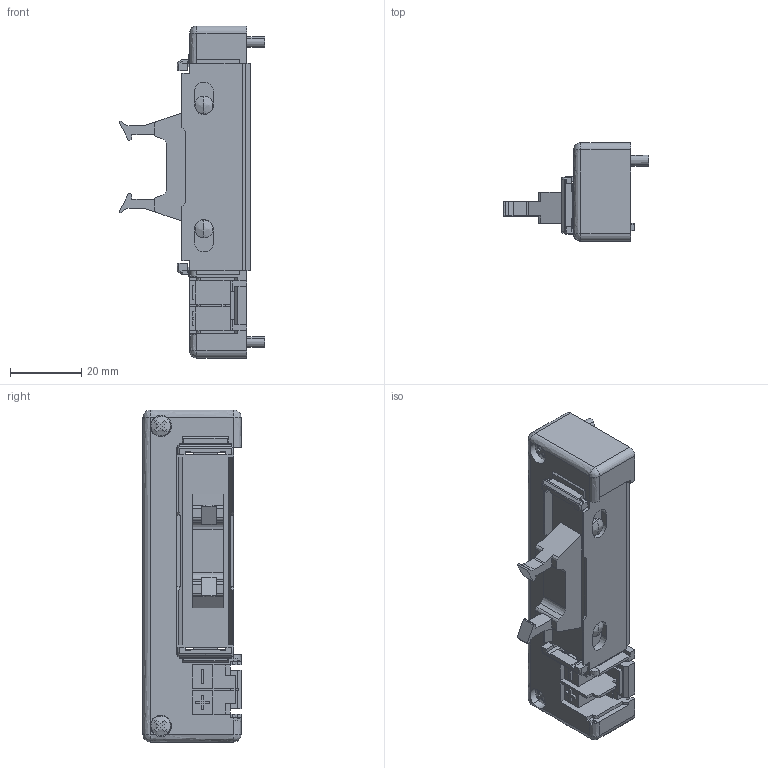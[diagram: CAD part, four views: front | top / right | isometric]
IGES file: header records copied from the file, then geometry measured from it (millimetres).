
Start section: ------------------------------------------------------------------------
Global section: file name: D:\ICADMX\tmp\trans3d_spg\CVICAD32.14756.FZX-F10x-E_9959.igs; native system: spGate; preprocessor: ver12.6.6; author: Unknown; organization: Unknown; date: 200909.091635; units: millimetre
Bounding box: 40.7 x 27.5 x 93 mm (x, y, z)
Volume: 34092.3 mm3; surface area: 14794.5 mm2
Topology: 2 solids, 2 shells, 415 faces, 1206 edges, 778 vertices
Faces by surface type: bspline 415
